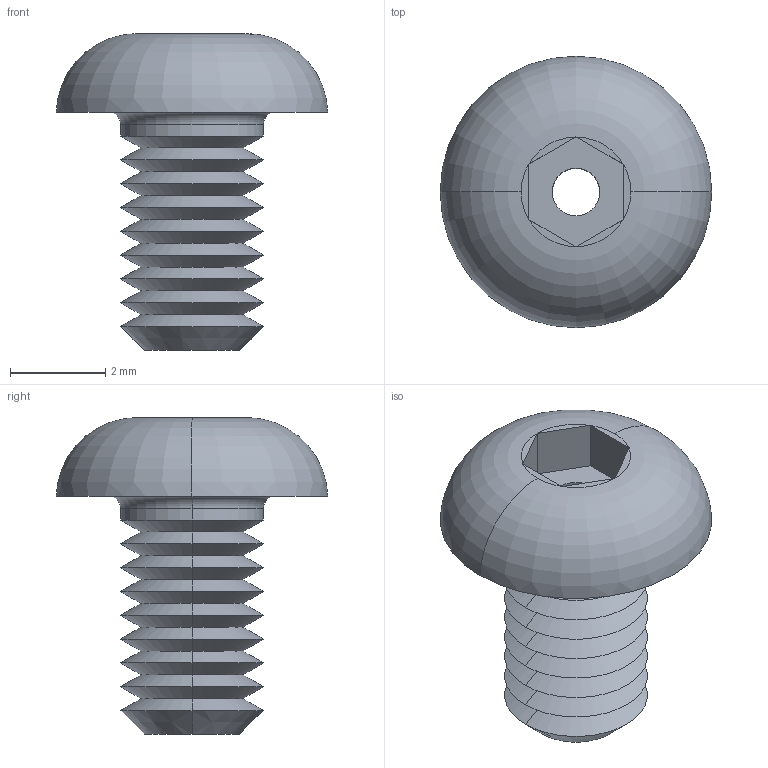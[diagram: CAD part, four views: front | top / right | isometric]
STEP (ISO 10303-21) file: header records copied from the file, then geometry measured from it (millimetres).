
FILE_DESCRIPTION (( 'STEP AP203' ), '1' );
FILE_NAME ('P0094.030-005-A2.step', '2019-07-12T16:50:54', ( '' ), ( '' ), 'SwSTEP 2.0', 'SolidWorks 2017', '' );
FILE_SCHEMA (( 'CONFIG_CONTROL_DESIGN' ));
Length unit declared in the file: millimetre
Products named in the file (1): P0094.030-005-A2
Bounding box: 5.7 x 5.7 x 6.65 mm (x, y, z)
Volume: 51.5 mm3; surface area: 159.4 mm2
Topology: 1 solids, 1 shells, 57 faces, 126 edges, 72 vertices
Faces by surface type: cone 34, plane 15, cylinder 4, torus 4
Entity records: 1639 total; most frequent: DIRECTION 294, CARTESIAN_POINT 276, ORIENTED_EDGE 252, EDGE_CURVE 126, AXIS2_PLACEMENT_3D 116, VERTEX_POINT 72, LINE 62, VECTOR 62
